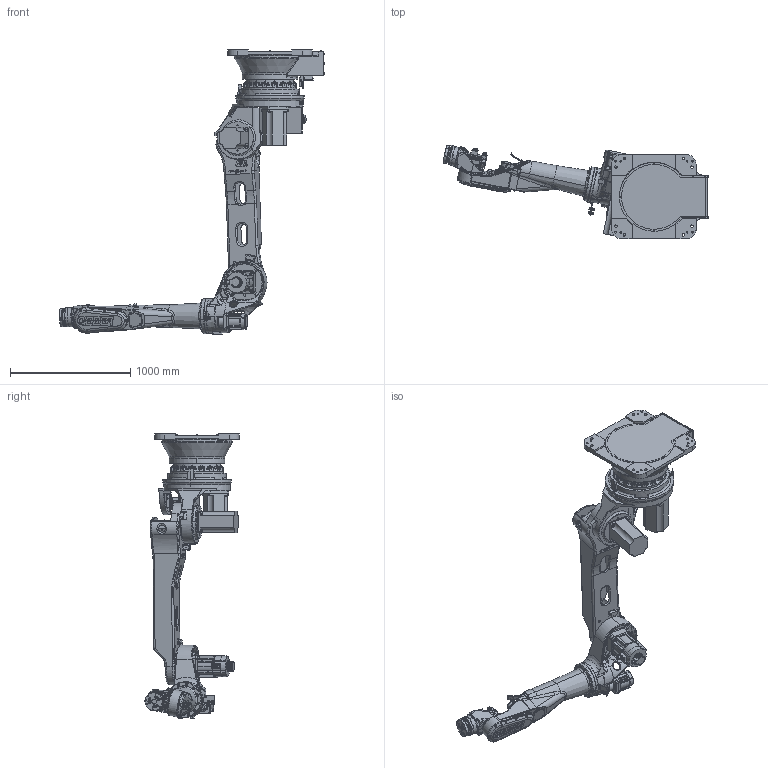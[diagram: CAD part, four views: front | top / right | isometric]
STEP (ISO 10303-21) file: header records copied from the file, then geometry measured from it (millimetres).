
FILE_DESCRIPTION (( 'STEP AP214' ), '1' );
FILE_NAME ('LT2800.STP', '2025-07-16T11:31:54', ( '' ), ( '' ), 'SwSTEP 2.0', 'SolidWorks 2022', '' );
FILE_SCHEMA (( 'AUTOMOTIVE_DESIGN' ));
Length unit declared in the file: millimetre
Products named in the file (7): 5; 1; 2; LT2800; 6; 4; 3
Assembly tree (6 placements, depth 2):
  LT2800
    1
    2
    3
    4
    6
    5
Bounding box: 2206.66 x 782.9 x 2359.31 mm (x, y, z)
Surface area: 9118890.6 mm2 (no closed solid volume)
Topology: 0 solids, 588 shells, 4154 faces, 15543 edges, 11437 vertices
Faces by surface type: cylinder 1583, plane 1477, bspline 528, torus 352, cone 167, sphere 47
Entity records: 353332 total; most frequent: CARTESIAN_POINT 212577, ORIENTED_EDGE 22838, EDGE_CURVE 15472, B_SPLINE_CURVE_WITH_KNOTS 14730, VERTEX_POINT 11429, DIRECTION 7528, EDGE_LOOP 5080, UNCERTAINTY_MEASURE_WITH_UNIT 4171
